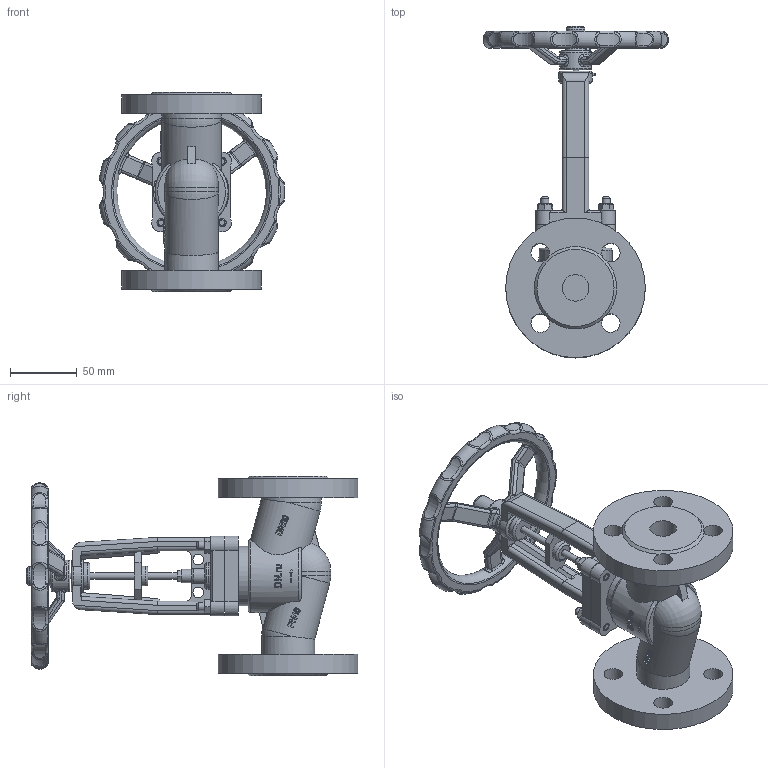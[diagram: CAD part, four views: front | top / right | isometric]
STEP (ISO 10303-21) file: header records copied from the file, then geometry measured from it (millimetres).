
FILE_DESCRIPTION(('STEP AP242'), '1');
FILE_NAME('VSO2130M-F-S 孰囡囗 玎镱痦 DN.ru 捏20 畜40', '2026-04-27T22:03:34', ('DN.ru'), (''), 'C3D Converter', 'C3D Toolkit', '');
FILE_SCHEMA(('AP242_MANAGED_MODEL_BASED_3D_ENGINEERING_MIM_LF { 1 0 10303 442 1 1 4 }'));
Length unit declared in the file: millimetre
Products named in the file (1): VSO2130M-F-S
Bounding box: 139.3 x 249.5 x 150 mm (x, y, z)
Volume: 659991.6 mm3; surface area: 124903 mm2
Topology: 1 solids, 1 shells, 953 faces, 2429 edges, 1509 vertices
Faces by surface type: plane 291, extrusion 217, cylinder 188, torus 116, sphere 65, bspline 57, cone 19
Full cylindrical faces by diameter (mm): 0.5 x1, 1 x1, 2 x2, 4.5 x1, 5 x2, 6 x12, 8 x2, 10 x2, 14 x8, 14.25 x1, 15 x1, 20 x3, 23.75 x1, 25 x1, 40 x2, 45 x3, 105 x2
Entity records: 67845 total; most frequent: CARTESIAN_POINT 39186, ORIENTED_EDGE 4656, DIRECTION 3630, EDGE_CURVE 2328, VERTEX_POINT 1501, AXIS2_PLACEMENT_3D 1318, EDGE_LOOP 1113, FACE_BOUND 1000
